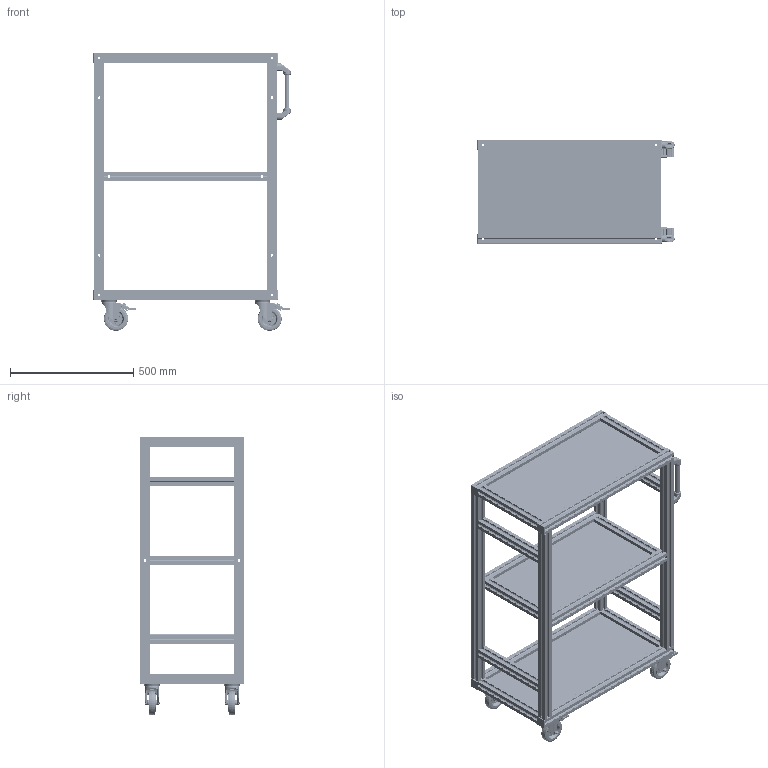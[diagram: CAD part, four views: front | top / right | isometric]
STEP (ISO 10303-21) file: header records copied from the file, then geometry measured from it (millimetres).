
FILE_DESCRIPTION(('STEP AP203'), '1');
FILE_NAME('ÀÌ04040.07041001 _ Ñòîéêà äëÿ èíñòðóìåíòà', '', ('UNSPECIFIED'), ('UNSPECIFIED'), 'C3D Converter', 'C3D Toolkit', '');
FILE_SCHEMA(('CONFIG_CONTROL_DESIGN'));
Length unit declared in the file: millimetre
Products named in the file (31): АМ04040.07041001; 3; 536302; 531132; Shaft CB-CR 100-M8-30-1239; SRP/SL (100-3-95x80-30127)-b; 1003095x801279-bf; Nut M8(100-30-12-45GREY); Bolt M8(12-100-30-55GREY)
Assembly tree (46 placements, depth 3):
  АМ04040.07041001
    3  x8
    536302  x4
      531132
      Shaft CB-CR 100-M8-30-1239
      SRP/SL (100-3-95x80-30127)-b
      1003095x801279-bf
      Nut M8(100-30-12-45GREY)
      Bolt M8(12-100-30-55GREY)
    (unnamed)  x4
    (unnamed)  x4
    (unnamed)
    (unnamed)
    (unnamed)
    (unnamed)
    (unnamed)
    (unnamed)
    (unnamed)
    (unnamed)
    (unnamed)
    (unnamed)
    (unnamed)
    (unnamed)
    (unnamed)
    (unnamed)
    (unnamed)
    (unnamed)
    (unnamed)
    (unnamed)
    (unnamed)
    (unnamed)
Bounding box: 799.5 x 420 x 1126 mm (x, y, z)
Volume: 15666538.2 mm3; surface area: 7193709.1 mm2
Topology: 65 solids, 65 shells, 7754 faces, 22516 edges, 14848 vertices
Faces by surface type: plane 3842, cylinder 3140, cone 240, torus 236, extrusion 180, bspline 72, sphere 44
Full cylindrical faces by diameter (mm): 4 x8, 5 x4, 6.5 x8, 6.647 x4, 8 x12, 8.2 x8, 8.5 x4, 10 x64, 11.47 x4, 11.999 x4, 12 x4, 13.999 x8, 14 x4, 16 x2, 20 x2, 20.1 x4, 21.999 x8, 22.833 x4, 29 x4, 46 x4, 52 x4, 54 x4, 59.22 x4, 59.58 x4, 61.999 x8, 62.9 x4, 71.999 x8
Entity records: 234223 total; most frequent: CARTESIAN_POINT 43879, ORIENTED_EDGE 32004, DIRECTION 30396, EDGE_CURVE 16002, VERTEX_POINT 10744, AXIS2_PLACEMENT_3D 10183, VECTOR 10030, LINE 9985
